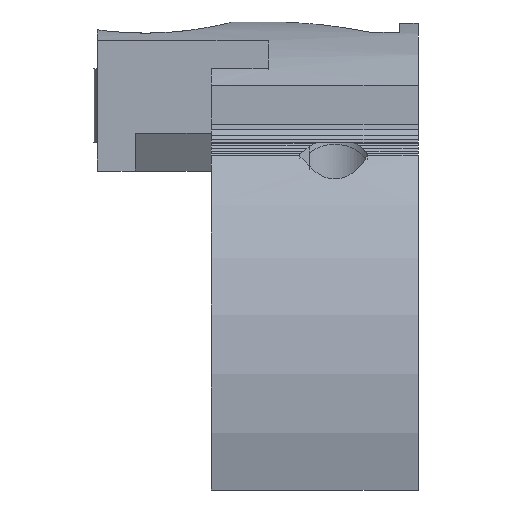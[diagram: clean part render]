
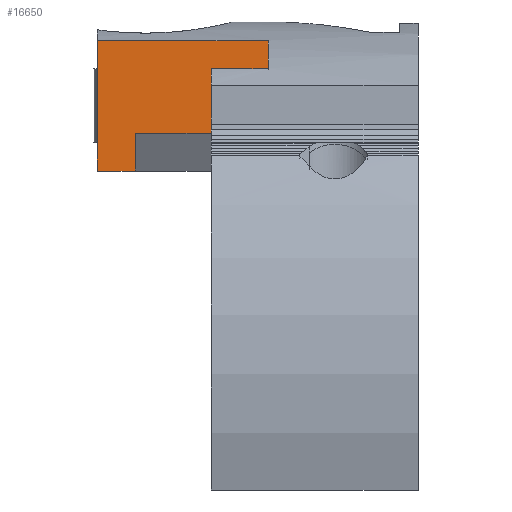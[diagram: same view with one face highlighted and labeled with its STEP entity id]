
A CAD part, front view. The second image highlights one B-rep face of the part: STEP entity #16650.
In plain terms, the highlighted planar face has unit normal (0, -1, 0).
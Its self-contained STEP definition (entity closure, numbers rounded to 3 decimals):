
#33 = CYLINDRICAL_SURFACE('',#34,18.85);
#34 = AXIS2_PLACEMENT_3D('',#35,#36,#37);
#35 = CARTESIAN_POINT('',(194.,0.,0.));
#36 = DIRECTION('',(1.,0.,0.));
#37 = DIRECTION('',(-0.,0.,1.));
#154 = PLANE('',#155);
#155 = AXIS2_PLACEMENT_3D('',#156,#157,#158);
#156 = CARTESIAN_POINT('',(185.,0.,0.));
#157 = DIRECTION('',(1.,0.,0.));
#158 = DIRECTION('',(-0.,0.,1.));
#424 = VERTEX_POINT('',#425);
#425 = CARTESIAN_POINT('',(185.,-6.,17.87));
#446 = EDGE_CURVE('',#424,#447,#449,.T.);
#447 = VERTEX_POINT('',#448);
#448 = CARTESIAN_POINT('',(194.,-6.,17.87));
#449 = SURFACE_CURVE('',#450,(#454,#460),.PCURVE_S1.);
#450 = LINE('',#451,#452);
#451 = CARTESIAN_POINT('',(185.,-6.,17.87));
#452 = VECTOR('',#453,1.);
#453 = DIRECTION('',(1.,0.,0.));
#454 = PCURVE('',#33,#455);
#455 = DEFINITIONAL_REPRESENTATION('',(#456),#459);
#456 = B_SPLINE_CURVE_WITH_KNOTS('',1,(#457,#458),.UNSPECIFIED.,.F.,.F.,
  (2,2),(0.,9.),.PIECEWISE_BEZIER_KNOTS.);
#457 = CARTESIAN_POINT('',(6.607,-9.));
#458 = CARTESIAN_POINT('',(6.607,0.));
#459 = ( GEOMETRIC_REPRESENTATION_CONTEXT(2) 
PARAMETRIC_REPRESENTATION_CONTEXT() REPRESENTATION_CONTEXT('2D SPACE',''
  ) );
#460 = PCURVE('',#461,#466);
#461 = PLANE('',#462);
#462 = AXIS2_PLACEMENT_3D('',#463,#464,#465);
#463 = CARTESIAN_POINT('',(185.,-6.,0.));
#464 = DIRECTION('',(-0.,1.,0.));
#465 = DIRECTION('',(0.,0.,1.));
#466 = DEFINITIONAL_REPRESENTATION('',(#467),#471);
#467 = LINE('',#468,#469);
#468 = CARTESIAN_POINT('',(17.87,0.));
#469 = VECTOR('',#470,1.);
#470 = DIRECTION('',(0.,1.));
#471 = ( GEOMETRIC_REPRESENTATION_CONTEXT(2) 
PARAMETRIC_REPRESENTATION_CONTEXT() REPRESENTATION_CONTEXT('2D SPACE',''
  ) );
#489 = PLANE('',#490);
#490 = AXIS2_PLACEMENT_3D('',#491,#492,#493);
#491 = CARTESIAN_POINT('',(194.,0.,0.));
#492 = DIRECTION('',(1.,0.,0.));
#493 = DIRECTION('',(-0.,0.,1.));
#956 = PLANE('',#957);
#957 = AXIS2_PLACEMENT_3D('',#958,#959,#960);
#958 = CARTESIAN_POINT('',(194.,0.,11.9));
#959 = DIRECTION('',(0.643,0.766,-0.));
#960 = DIRECTION('',(0.766,-0.643,0.));
#1187 = CYLINDRICAL_SURFACE('',#1188,16.85);
#1188 = AXIS2_PLACEMENT_3D('',#1189,#1190,#1191);
#1189 = CARTESIAN_POINT('',(193.9,0.,0.));
#1190 = DIRECTION('',(1.,0.,0.));
#1191 = DIRECTION('',(-0.,0.,1.));
#1412 = VERTEX_POINT('',#1413);
#1413 = CARTESIAN_POINT('',(201.139,-6.,15.746));
#1438 = EDGE_CURVE('',#1439,#1412,#1441,.T.);
#1439 = VERTEX_POINT('',#1440);
#1440 = CARTESIAN_POINT('',(194.,-6.,15.746));
#1441 = SURFACE_CURVE('',#1442,(#1446,#1453),.PCURVE_S1.);
#1442 = LINE('',#1443,#1444);
#1443 = CARTESIAN_POINT('',(194.,-6.,15.746));
#1444 = VECTOR('',#1445,1.);
#1445 = DIRECTION('',(1.,0.,0.));
#1446 = PCURVE('',#1187,#1447);
#1447 = DEFINITIONAL_REPRESENTATION('',(#1448),#1452);
#1448 = LINE('',#1449,#1450);
#1449 = CARTESIAN_POINT('',(6.647,0.1));
#1450 = VECTOR('',#1451,1.);
#1451 = DIRECTION('',(0.,1.));
#1452 = ( GEOMETRIC_REPRESENTATION_CONTEXT(2) 
PARAMETRIC_REPRESENTATION_CONTEXT() REPRESENTATION_CONTEXT('2D SPACE',''
  ) );
#1453 = PCURVE('',#461,#1454);
#1454 = DEFINITIONAL_REPRESENTATION('',(#1455),#1459);
#1455 = LINE('',#1456,#1457);
#1456 = CARTESIAN_POINT('',(15.746,9.));
#1457 = VECTOR('',#1458,1.);
#1458 = DIRECTION('',(0.,1.));
#1459 = ( GEOMETRIC_REPRESENTATION_CONTEXT(2) 
PARAMETRIC_REPRESENTATION_CONTEXT() REPRESENTATION_CONTEXT('2D SPACE',''
  ) );
#1560 = EDGE_CURVE('',#1412,#1561,#1563,.T.);
#1561 = VERTEX_POINT('',#1562);
#1562 = CARTESIAN_POINT('',(201.139,-6.,13.));
#1563 = SURFACE_CURVE('',#1564,(#1568,#1574),.PCURVE_S1.);
#1564 = LINE('',#1565,#1566);
#1565 = CARTESIAN_POINT('',(201.139,-6.,12.4));
#1566 = VECTOR('',#1567,1.);
#1567 = DIRECTION('',(-0.,0.,-1.));
#1568 = PCURVE('',#956,#1569);
#1569 = DEFINITIONAL_REPRESENTATION('',(#1570),#1573);
#1570 = B_SPLINE_CURVE_WITH_KNOTS('',1,(#1571,#1572),.UNSPECIFIED.,.F.,
  .F.,(2,2),(-6.5,-0.5),.PIECEWISE_BEZIER_KNOTS.);
#1571 = CARTESIAN_POINT('',(9.325,-7.));
#1572 = CARTESIAN_POINT('',(9.325,-1.));
#1573 = ( GEOMETRIC_REPRESENTATION_CONTEXT(2) 
PARAMETRIC_REPRESENTATION_CONTEXT() REPRESENTATION_CONTEXT('2D SPACE',''
  ) );
#1574 = PCURVE('',#461,#1575);
#1575 = DEFINITIONAL_REPRESENTATION('',(#1576),#1580);
#1576 = LINE('',#1577,#1578);
#1577 = CARTESIAN_POINT('',(12.4,16.139));
#1578 = VECTOR('',#1579,1.);
#1579 = DIRECTION('',(-1.,0.));
#1580 = ( GEOMETRIC_REPRESENTATION_CONTEXT(2) 
PARAMETRIC_REPRESENTATION_CONTEXT() REPRESENTATION_CONTEXT('2D SPACE',''
  ) );
#1597 = PLANE('',#1598);
#1598 = AXIS2_PLACEMENT_3D('',#1599,#1600,#1601);
#1599 = CARTESIAN_POINT('',(191.,-11.3,13.));
#1600 = DIRECTION('',(0.,0.,1.));
#1601 = DIRECTION('',(1.,0.,-0.));
#1636 = EDGE_CURVE('',#1637,#1561,#1639,.T.);
#1637 = VERTEX_POINT('',#1638);
#1638 = CARTESIAN_POINT('',(187.,-6.,13.));
#1639 = SURFACE_CURVE('',#1640,(#1644,#1651),.PCURVE_S1.);
#1640 = LINE('',#1641,#1642);
#1641 = CARTESIAN_POINT('',(187.,-6.,13.));
#1642 = VECTOR('',#1643,1.);
#1643 = DIRECTION('',(1.,0.,0.));
#1644 = PCURVE('',#1597,#1645);
#1645 = DEFINITIONAL_REPRESENTATION('',(#1646),#1650);
#1646 = LINE('',#1647,#1648);
#1647 = CARTESIAN_POINT('',(-4.,5.3));
#1648 = VECTOR('',#1649,1.);
#1649 = DIRECTION('',(1.,0.));
#1650 = ( GEOMETRIC_REPRESENTATION_CONTEXT(2) 
PARAMETRIC_REPRESENTATION_CONTEXT() REPRESENTATION_CONTEXT('2D SPACE',''
  ) );
#1651 = PCURVE('',#461,#1652);
#1652 = DEFINITIONAL_REPRESENTATION('',(#1653),#1657);
#1653 = LINE('',#1654,#1655);
#1654 = CARTESIAN_POINT('',(13.,2.));
#1655 = VECTOR('',#1656,1.);
#1656 = DIRECTION('',(0.,1.));
#1657 = ( GEOMETRIC_REPRESENTATION_CONTEXT(2) 
PARAMETRIC_REPRESENTATION_CONTEXT() REPRESENTATION_CONTEXT('2D SPACE',''
  ) );
#1675 = PLANE('',#1676);
#1676 = AXIS2_PLACEMENT_3D('',#1677,#1678,#1679);
#1677 = CARTESIAN_POINT('',(191.,-9.4,11.));
#1678 = DIRECTION('',(-0.648,-0.762,0.));
#1679 = DIRECTION('',(-0.762,0.648,0.));
#1938 = PLANE('',#1939);
#1939 = AXIS2_PLACEMENT_3D('',#1940,#1941,#1942);
#1940 = CARTESIAN_POINT('',(185.,-6.,11.));
#1941 = DIRECTION('',(0.,0.,1.));
#1942 = DIRECTION('',(1.,0.,-0.));
#1977 = VERTEX_POINT('',#1978);
#1978 = CARTESIAN_POINT('',(185.,-6.,11.));
#1999 = EDGE_CURVE('',#1977,#2000,#2002,.T.);
#2000 = VERTEX_POINT('',#2001);
#2001 = CARTESIAN_POINT('',(187.,-6.,11.));
#2002 = SURFACE_CURVE('',#2003,(#2007,#2014),.PCURVE_S1.);
#2003 = LINE('',#2004,#2005);
#2004 = CARTESIAN_POINT('',(185.,-6.,11.));
#2005 = VECTOR('',#2006,1.);
#2006 = DIRECTION('',(1.,0.,-0.));
#2007 = PCURVE('',#1938,#2008);
#2008 = DEFINITIONAL_REPRESENTATION('',(#2009),#2013);
#2009 = LINE('',#2010,#2011);
#2010 = CARTESIAN_POINT('',(0.,0.));
#2011 = VECTOR('',#2012,1.);
#2012 = DIRECTION('',(1.,0.));
#2013 = ( GEOMETRIC_REPRESENTATION_CONTEXT(2) 
PARAMETRIC_REPRESENTATION_CONTEXT() REPRESENTATION_CONTEXT('2D SPACE',''
  ) );
#2014 = PCURVE('',#461,#2015);
#2015 = DEFINITIONAL_REPRESENTATION('',(#2016),#2020);
#2016 = LINE('',#2017,#2018);
#2017 = CARTESIAN_POINT('',(11.,0.));
#2018 = VECTOR('',#2019,1.);
#2019 = DIRECTION('',(0.,1.));
#2020 = ( GEOMETRIC_REPRESENTATION_CONTEXT(2) 
PARAMETRIC_REPRESENTATION_CONTEXT() REPRESENTATION_CONTEXT('2D SPACE',''
  ) );
#16128 = EDGE_CURVE('',#2000,#1637,#16129,.T.);
#16129 = SURFACE_CURVE('',#16130,(#16134,#16141),.PCURVE_S1.);
#16130 = LINE('',#16131,#16132);
#16131 = CARTESIAN_POINT('',(187.,-6.,11.));
#16132 = VECTOR('',#16133,1.);
#16133 = DIRECTION('',(0.,0.,1.));
#16134 = PCURVE('',#1675,#16135);
#16135 = DEFINITIONAL_REPRESENTATION('',(#16136),#16140);
#16136 = LINE('',#16137,#16138);
#16137 = CARTESIAN_POINT('',(5.25,0.));
#16138 = VECTOR('',#16139,1.);
#16139 = DIRECTION('',(0.,-1.));
#16140 = ( GEOMETRIC_REPRESENTATION_CONTEXT(2) 
PARAMETRIC_REPRESENTATION_CONTEXT() REPRESENTATION_CONTEXT('2D SPACE',''
  ) );
#16141 = PCURVE('',#461,#16142);
#16142 = DEFINITIONAL_REPRESENTATION('',(#16143),#16147);
#16143 = LINE('',#16144,#16145);
#16144 = CARTESIAN_POINT('',(11.,2.));
#16145 = VECTOR('',#16146,1.);
#16146 = DIRECTION('',(1.,0.));
#16147 = ( GEOMETRIC_REPRESENTATION_CONTEXT(2) 
PARAMETRIC_REPRESENTATION_CONTEXT() REPRESENTATION_CONTEXT('2D SPACE',''
  ) );
#16628 = EDGE_CURVE('',#447,#1439,#16629,.T.);
#16629 = SURFACE_CURVE('',#16630,(#16634,#16641),.PCURVE_S1.);
#16630 = LINE('',#16631,#16632);
#16631 = CARTESIAN_POINT('',(194.,-6.,17.87));
#16632 = VECTOR('',#16633,1.);
#16633 = DIRECTION('',(0.,0.,-1.));
#16634 = PCURVE('',#489,#16635);
#16635 = DEFINITIONAL_REPRESENTATION('',(#16636),#16640);
#16636 = LINE('',#16637,#16638);
#16637 = CARTESIAN_POINT('',(17.87,6.));
#16638 = VECTOR('',#16639,1.);
#16639 = DIRECTION('',(-1.,0.));
#16640 = ( GEOMETRIC_REPRESENTATION_CONTEXT(2) 
PARAMETRIC_REPRESENTATION_CONTEXT() REPRESENTATION_CONTEXT('2D SPACE',''
  ) );
#16641 = PCURVE('',#461,#16642);
#16642 = DEFINITIONAL_REPRESENTATION('',(#16643),#16647);
#16643 = LINE('',#16644,#16645);
#16644 = CARTESIAN_POINT('',(17.87,9.));
#16645 = VECTOR('',#16646,1.);
#16646 = DIRECTION('',(-1.,0.));
#16647 = ( GEOMETRIC_REPRESENTATION_CONTEXT(2) 
PARAMETRIC_REPRESENTATION_CONTEXT() REPRESENTATION_CONTEXT('2D SPACE',''
  ) );
#16650 = ADVANCED_FACE('',(#16651),#461,.F.);
#16651 = FACE_BOUND('',#16652,.F.);
#16652 = EDGE_LOOP('',(#16653,#16654,#16655,#16656,#16657,#16658,#16679,
    #16680));
#16653 = ORIENTED_EDGE('',*,*,#1438,.T.);
#16654 = ORIENTED_EDGE('',*,*,#1560,.T.);
#16655 = ORIENTED_EDGE('',*,*,#1636,.F.);
#16656 = ORIENTED_EDGE('',*,*,#16128,.F.);
#16657 = ORIENTED_EDGE('',*,*,#1999,.F.);
#16658 = ORIENTED_EDGE('',*,*,#16659,.T.);
#16659 = EDGE_CURVE('',#1977,#424,#16660,.T.);
#16660 = SURFACE_CURVE('',#16661,(#16665,#16672),.PCURVE_S1.);
#16661 = LINE('',#16662,#16663);
#16662 = CARTESIAN_POINT('',(185.,-6.,11.));
#16663 = VECTOR('',#16664,1.);
#16664 = DIRECTION('',(0.,0.,1.));
#16665 = PCURVE('',#461,#16666);
#16666 = DEFINITIONAL_REPRESENTATION('',(#16667),#16671);
#16667 = LINE('',#16668,#16669);
#16668 = CARTESIAN_POINT('',(11.,0.));
#16669 = VECTOR('',#16670,1.);
#16670 = DIRECTION('',(1.,0.));
#16671 = ( GEOMETRIC_REPRESENTATION_CONTEXT(2) 
PARAMETRIC_REPRESENTATION_CONTEXT() REPRESENTATION_CONTEXT('2D SPACE',''
  ) );
#16672 = PCURVE('',#154,#16673);
#16673 = DEFINITIONAL_REPRESENTATION('',(#16674),#16678);
#16674 = LINE('',#16675,#16676);
#16675 = CARTESIAN_POINT('',(11.,6.));
#16676 = VECTOR('',#16677,1.);
#16677 = DIRECTION('',(1.,0.));
#16678 = ( GEOMETRIC_REPRESENTATION_CONTEXT(2) 
PARAMETRIC_REPRESENTATION_CONTEXT() REPRESENTATION_CONTEXT('2D SPACE',''
  ) );
#16679 = ORIENTED_EDGE('',*,*,#446,.T.);
#16680 = ORIENTED_EDGE('',*,*,#16628,.T.);
